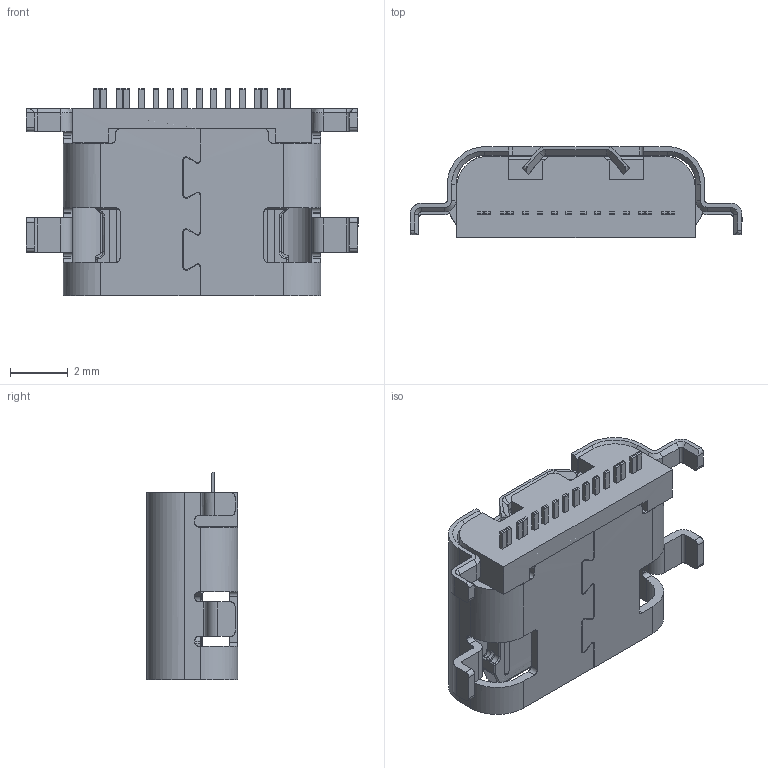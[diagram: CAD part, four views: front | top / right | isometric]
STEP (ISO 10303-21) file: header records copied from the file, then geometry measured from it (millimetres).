
FILE_DESCRIPTION (( 'STEP AP203' ), '1' );
FILE_NAME ('U5090-16PN0.8C6.5L.STEP', '2026-09-08T06:24:05', ( '' ), ( '' ), 'SwSTEP 2.0', 'SolidWorks 2024', '' );
FILE_SCHEMA (( 'CONFIG_CONTROL_DESIGN' ));
Length unit declared in the file: millimetre
Products named in the file (1): U5090-16PN0.8C6.5L
Bounding box: 11.54 x 3.19 x 7.2 mm (x, y, z)
Volume: 98.9 mm3; surface area: 439.6 mm2
Topology: 5 solids, 5 shells, 737 faces, 2059 edges, 1345 vertices
Faces by surface type: plane 509, bspline 228
Entity records: 27436 total; most frequent: CARTESIAN_POINT 11689, ORIENTED_EDGE 4110, EDGE_CURVE 2055, DIRECTION 1975, VERTEX_POINT 1345, B_SPLINE_CURVE_WITH_KNOTS 1004, VECTOR 893, LINE 893
